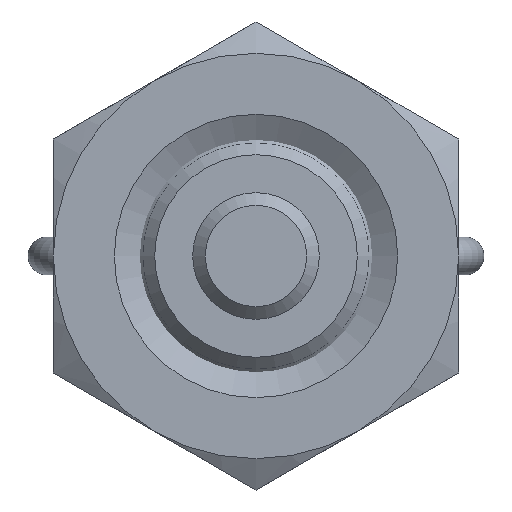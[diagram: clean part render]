
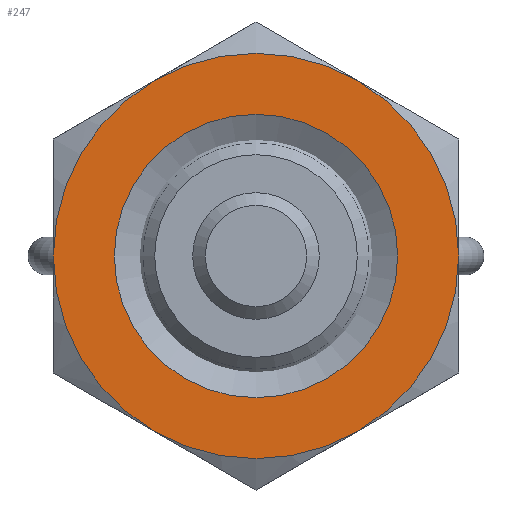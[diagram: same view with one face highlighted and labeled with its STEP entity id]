
A CAD part, front view. The second image highlights one B-rep face of the part: STEP entity #247.
In plain terms, the highlighted planar face has unit normal (0, -1, 0) as drawn and (1, 0, 0) by its records, which use the part's own axes.
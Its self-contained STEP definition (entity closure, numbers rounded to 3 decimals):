
#247 = ADVANCED_FACE( '', ( #381, #382 ), #383, .F. );
#381 = FACE_BOUND( '', #539, .T. );
#382 = FACE_OUTER_BOUND( '', #540, .T. );
#383 = PLANE( '', #541 );
#539 = EDGE_LOOP( '', ( #831 ) );
#540 = EDGE_LOOP( '', ( #832, #833, #834, #835, #836, #837 ) );
#541 = AXIS2_PLACEMENT_3D( '', #838, #839, #840 );
#831 = ORIENTED_EDGE( '', *, *, #1034, .F. );
#832 = ORIENTED_EDGE( '', *, *, #1035, .T. );
#833 = ORIENTED_EDGE( '', *, *, #1036, .T. );
#834 = ORIENTED_EDGE( '', *, *, #1037, .T. );
#835 = ORIENTED_EDGE( '', *, *, #1038, .T. );
#836 = ORIENTED_EDGE( '', *, *, #1039, .T. );
#837 = ORIENTED_EDGE( '', *, *, #1040, .T. );
#838 = CARTESIAN_POINT( '', ( 5., 8., 0. ) );
#839 = DIRECTION( '', ( -1., 0., 0. ) );
#840 = DIRECTION( '', ( 0., 0., 1. ) );
#1034 = EDGE_CURVE( '', #1192, #1192, #1193, .T. );
#1035 = EDGE_CURVE( '', #1194, #1195, #1196, .T. );
#1036 = EDGE_CURVE( '', #1195, #1174, #1197, .T. );
#1037 = EDGE_CURVE( '', #1174, #1165, #1198, .T. );
#1038 = EDGE_CURVE( '', #1165, #1186, #1199, .T. );
#1039 = EDGE_CURVE( '', #1186, #1200, #1201, .T. );
#1040 = EDGE_CURVE( '', #1200, #1194, #1202, .T. );
#1165 = VERTEX_POINT( '', #1404 );
#1174 = VERTEX_POINT( '', #1434 );
#1186 = VERTEX_POINT( '', #1472 );
#1192 = VERTEX_POINT( '', #1502 );
#1193 = CIRCLE( '', #1503, 5.594 );
#1194 = VERTEX_POINT( '', #1504 );
#1195 = VERTEX_POINT( '', #1505 );
#1196 = CIRCLE( '', #1506, 8. );
#1197 = CIRCLE( '', #1507, 8. );
#1198 = CIRCLE( '', #1508, 8. );
#1199 = CIRCLE( '', #1509, 8. );
#1200 = VERTEX_POINT( '', #1510 );
#1201 = CIRCLE( '', #1511, 8. );
#1202 = CIRCLE( '', #1512, 8. );
#1404 = CARTESIAN_POINT( '', ( 5., 0., 8. ) );
#1434 = CARTESIAN_POINT( '', ( 5., 6.928, 4. ) );
#1472 = CARTESIAN_POINT( '', ( 5., -6.928, 4. ) );
#1502 = CARTESIAN_POINT( '', ( 5., 0., -5.594 ) );
#1503 = AXIS2_PLACEMENT_3D( '', #1741, #1742, #1743 );
#1504 = CARTESIAN_POINT( '', ( 5., 0., -8. ) );
#1505 = CARTESIAN_POINT( '', ( 5., 6.928, -4. ) );
#1506 = AXIS2_PLACEMENT_3D( '', #1744, #1745, #1746 );
#1507 = AXIS2_PLACEMENT_3D( '', #1747, #1748, #1749 );
#1508 = AXIS2_PLACEMENT_3D( '', #1750, #1751, #1752 );
#1509 = AXIS2_PLACEMENT_3D( '', #1753, #1754, #1755 );
#1510 = CARTESIAN_POINT( '', ( 5., -6.928, -4. ) );
#1511 = AXIS2_PLACEMENT_3D( '', #1756, #1757, #1758 );
#1512 = AXIS2_PLACEMENT_3D( '', #1759, #1760, #1761 );
#1741 = CARTESIAN_POINT( '', ( 5., 0., 0. ) );
#1742 = DIRECTION( '', ( 1., 0., 0. ) );
#1743 = DIRECTION( '', ( 0., 0., -1. ) );
#1744 = CARTESIAN_POINT( '', ( 5., 0., 0. ) );
#1745 = DIRECTION( '', ( 1., 0., 0. ) );
#1746 = DIRECTION( '', ( 0., 0., -1. ) );
#1747 = CARTESIAN_POINT( '', ( 5., 0., 0. ) );
#1748 = DIRECTION( '', ( 1., 0., 0. ) );
#1749 = DIRECTION( '', ( 0., 0., -1. ) );
#1750 = CARTESIAN_POINT( '', ( 5., 0., 0. ) );
#1751 = DIRECTION( '', ( 1., 0., 0. ) );
#1752 = DIRECTION( '', ( 0., 0., -1. ) );
#1753 = CARTESIAN_POINT( '', ( 5., 0., 0. ) );
#1754 = DIRECTION( '', ( 1., 0., 0. ) );
#1755 = DIRECTION( '', ( 0., 0., -1. ) );
#1756 = CARTESIAN_POINT( '', ( 5., 0., 0. ) );
#1757 = DIRECTION( '', ( 1., 0., 0. ) );
#1758 = DIRECTION( '', ( 0., 0., -1. ) );
#1759 = CARTESIAN_POINT( '', ( 5., 0., 0. ) );
#1760 = DIRECTION( '', ( 1., 0., 0. ) );
#1761 = DIRECTION( '', ( 0., 0., -1. ) );
